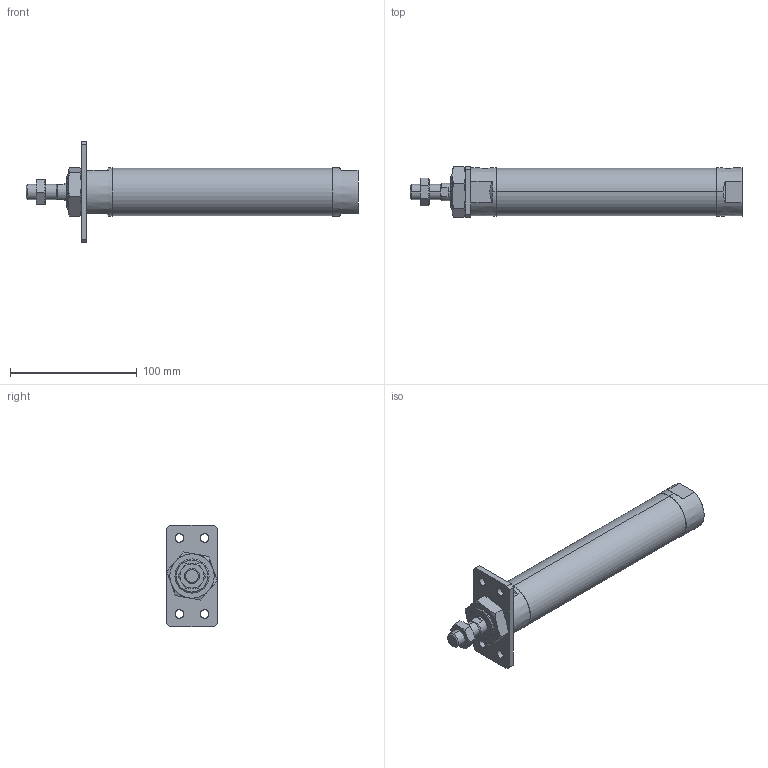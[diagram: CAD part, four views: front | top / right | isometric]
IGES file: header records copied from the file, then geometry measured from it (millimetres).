
Start section: SolidWorks IGES file using analytic representation for surfaces
Global section: file name: C:\Users\Toshiba\Desktop\JGND2-32-125-A.IGS; native system: SolidWorks 2014; preprocessor: SolidWorks 2014; author: Toshiba; date: 160804.105300; units: millimetre
Bounding box: 262 x 40 x 80 mm (x, y, z)
Surface area: 42240.7 mm2 (no closed solid volume)
Topology: 0 solids, 0 shells, 109 faces, 1980 edges, 1976 vertices
Faces by surface type: bspline 66, revolution 43
